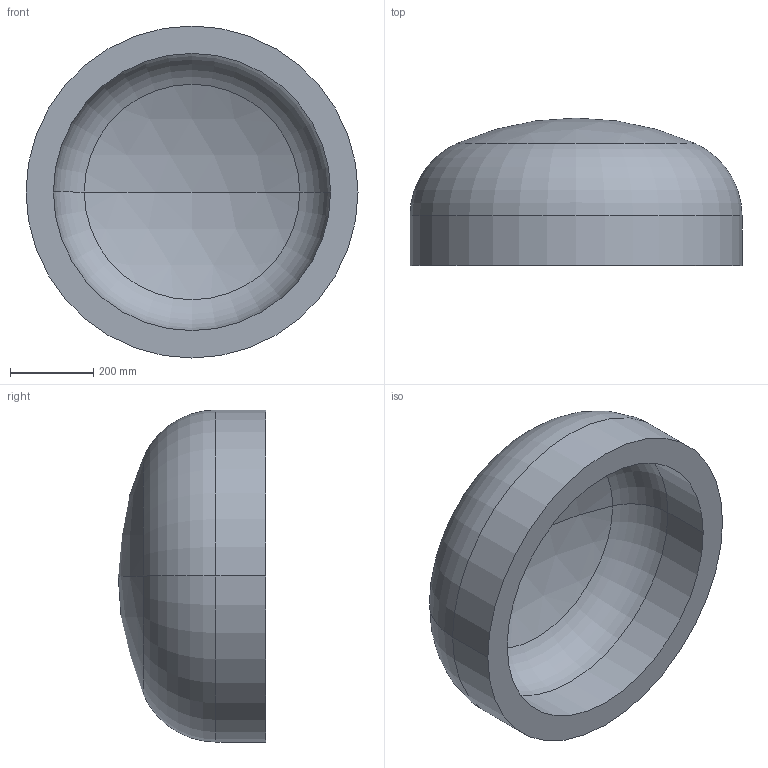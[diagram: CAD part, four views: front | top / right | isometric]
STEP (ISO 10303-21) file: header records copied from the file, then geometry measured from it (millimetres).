
FILE_DESCRIPTION (( 'STEP AP203' ), '1' );
FILE_NAME ('DIN 28013 Korbbogenform_-_Boden DIN 28013 - 800 x 120 - I - s=66.step', '2016-07-01T08:19:57', ( '' ), ( '' ), 'SwSTEP 2.0', 'SolidWorks 2013', '' );
FILE_SCHEMA (( 'CONFIG_CONTROL_DESIGN' ));
Length unit declared in the file: millimetre
Products named in the file (1): DIN 28013 Korbbogenform_-_Boden DIN 28013 - 800 x 120 - I - s=66
Bounding box: 800 x 355.32 x 800 mm (x, y, z)
Volume: 59825126.6 mm3; surface area: 1974196.8 mm2
Topology: 1 solids, 1 shells, 13 faces, 24 edges, 14 vertices
Faces by surface type: torus 4, cylinder 4, sphere 4, plane 1
Entity records: 407 total; most frequent: DIRECTION 72, CARTESIAN_POINT 52, ORIENTED_EDGE 48, AXIS2_PLACEMENT_3D 34, EDGE_CURVE 24, CIRCLE 20, VERTEX_POINT 14, EDGE_LOOP 14
